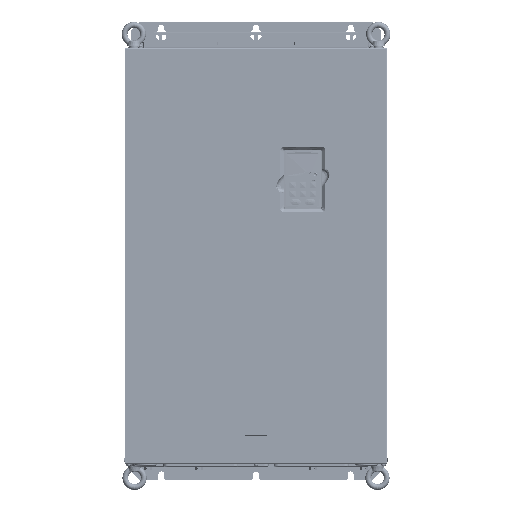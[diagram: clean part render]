
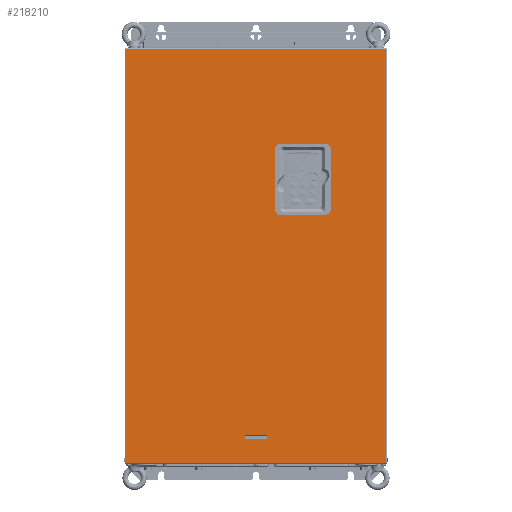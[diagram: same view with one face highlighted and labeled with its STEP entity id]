
A CAD part, top view. The second image highlights one B-rep face of the part: STEP entity #218210.
In plain terms, the highlighted planar face has unit normal (0, 0, 1).
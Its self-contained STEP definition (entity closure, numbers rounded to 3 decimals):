
#216063=DIRECTION('',(1.,0.,0.));
#216064=VECTOR('',#216063,82.);
#216065=CARTESIAN_POINT('',(-130.,-213.61,0.));
#216066=LINE('',#216065,#216064);
#216067=DIRECTION('',(0.,1.,0.));
#216068=VECTOR('',#216067,111.5);
#216069=CARTESIAN_POINT('',(-35.5,-201.11,0.));
#216070=LINE('',#216069,#216068);
#216071=DIRECTION('',(-1.,0.,0.));
#216072=VECTOR('',#216071,82.);
#216073=CARTESIAN_POINT('',(-48.,-77.11,0.));
#216074=LINE('',#216073,#216072);
#216075=DIRECTION('',(0.,-1.,0.));
#216076=VECTOR('',#216075,111.5);
#216077=CARTESIAN_POINT('',(-142.5,-89.61,0.));
#216078=LINE('',#216077,#216076);
#216079=CARTESIAN_POINT('',(-20.,348.,0.));
#216080=DIRECTION('',(0.,0.,-1.));
#216081=DIRECTION('',(-1.,0.,0.));
#216082=AXIS2_PLACEMENT_3D('',#216079,#216080,#216081);
#216084=DIRECTION('',(0.,1.,0.));
#216085=VECTOR('',#216084,6.);
#216086=CARTESIAN_POINT('',(-20.7,342.,0.));
#216087=LINE('',#216086,#216085);
#216088=CARTESIAN_POINT('',(-20.,342.,0.));
#216089=DIRECTION('',(0.,0.,-1.));
#216090=DIRECTION('',(0.,-1.,0.));
#216091=AXIS2_PLACEMENT_3D('',#216088,#216089,#216090);
#216093=DIRECTION('',(-1.,0.,0.));
#216094=VECTOR('',#216093,40.);
#216095=CARTESIAN_POINT('',(20.,341.3,0.));
#216096=LINE('',#216095,#216094);
#216097=CARTESIAN_POINT('',(20.,342.,0.));
#216098=DIRECTION('',(0.,0.,-1.));
#216099=DIRECTION('',(1.,0.,0.));
#216100=AXIS2_PLACEMENT_3D('',#216097,#216098,#216099);
#216102=DIRECTION('',(0.,-1.,0.));
#216103=VECTOR('',#216102,6.);
#216104=CARTESIAN_POINT('',(20.7,348.,0.));
#216105=LINE('',#216104,#216103);
#216106=CARTESIAN_POINT('',(20.,348.,0.));
#216107=DIRECTION('',(0.,0.,-1.));
#216108=DIRECTION('',(0.,1.,0.));
#216109=AXIS2_PLACEMENT_3D('',#216106,#216107,#216108);
#216111=DIRECTION('',(1.,0.,0.));
#216112=VECTOR('',#216111,40.);
#216113=CARTESIAN_POINT('',(-20.,348.7,0.));
#216114=LINE('',#216113,#216112);
#216129=DIRECTION('',(0.,1.,0.));
#216130=VECTOR('',#216129,787.2);
#216131=CARTESIAN_POINT('',(-247.6,-393.6,0.));
#216132=LINE('',#216131,#216130);
#216192=DIRECTION('',(-1.,0.,0.));
#216193=VECTOR('',#216192,496.2);
#216194=CARTESIAN_POINT('',(248.6,-393.6,0.));
#216195=LINE('',#216194,#216193);
#216593=DIRECTION('',(0.,-1.,0.));
#216594=VECTOR('',#216593,787.2);
#216595=CARTESIAN_POINT('',(248.6,393.6,0.));
#216596=LINE('',#216595,#216594);
#216656=DIRECTION('',(1.,0.,0.));
#216657=VECTOR('',#216656,496.2);
#216658=CARTESIAN_POINT('',(-247.6,393.6,0.));
#216659=LINE('',#216658,#216657);
#217173=CARTESIAN_POINT('',(-48.,-201.11,0.));
#217174=DIRECTION('',(0.,0.,-1.));
#217175=DIRECTION('',(1.,0.,0.));
#217176=AXIS2_PLACEMENT_3D('',#217173,#217174,#217175);
#217191=CARTESIAN_POINT('',(-130.,-201.11,0.));
#217192=DIRECTION('',(0.,0.,-1.));
#217193=DIRECTION('',(0.,-1.,0.));
#217194=AXIS2_PLACEMENT_3D('',#217191,#217192,#217193);
#217209=CARTESIAN_POINT('',(-130.,-89.61,0.));
#217210=DIRECTION('',(0.,0.,-1.));
#217211=DIRECTION('',(-1.,0.,0.));
#217212=AXIS2_PLACEMENT_3D('',#217209,#217210,#217211);
#217227=CARTESIAN_POINT('',(-48.,-89.61,0.));
#217228=DIRECTION('',(0.,0.,-1.));
#217229=DIRECTION('',(0.,1.,0.));
#217230=AXIS2_PLACEMENT_3D('',#217227,#217228,#217229);
#217763=CARTESIAN_POINT('',(-247.6,393.6,0.));
#217764=VERTEX_POINT('',#217763);
#217767=CARTESIAN_POINT('',(-247.6,-393.6,0.));
#217768=VERTEX_POINT('',#217767);
#217795=CARTESIAN_POINT('',(248.6,-393.6,0.));
#217796=VERTEX_POINT('',#217795);
#217799=CARTESIAN_POINT('',(248.6,393.6,0.));
#217800=VERTEX_POINT('',#217799);
#217983=CARTESIAN_POINT('',(-130.,-213.61,0.));
#217985=VERTEX_POINT('',#217983);
#217987=CARTESIAN_POINT('',(-142.5,-201.11,0.));
#217989=VERTEX_POINT('',#217987);
#217991=CARTESIAN_POINT('',(-35.5,-201.11,0.));
#217993=VERTEX_POINT('',#217991);
#217995=CARTESIAN_POINT('',(-48.,-213.61,0.));
#217997=VERTEX_POINT('',#217995);
#217999=CARTESIAN_POINT('',(-142.5,-89.61,0.));
#218001=VERTEX_POINT('',#217999);
#218003=CARTESIAN_POINT('',(-130.,-77.11,0.));
#218005=VERTEX_POINT('',#218003);
#218007=CARTESIAN_POINT('',(-48.,-77.11,0.));
#218009=VERTEX_POINT('',#218007);
#218011=CARTESIAN_POINT('',(-35.5,-89.61,0.));
#218013=VERTEX_POINT('',#218011);
#218063=CARTESIAN_POINT('',(-20.7,348.,0.));
#218064=CARTESIAN_POINT('',(-20.,348.7,0.));
#218065=VERTEX_POINT('',#218063);
#218066=VERTEX_POINT('',#218064);
#218067=CARTESIAN_POINT('',(20.,348.7,0.));
#218068=VERTEX_POINT('',#218067);
#218069=CARTESIAN_POINT('',(20.7,348.,0.));
#218070=VERTEX_POINT('',#218069);
#218071=CARTESIAN_POINT('',(20.7,342.,0.));
#218072=VERTEX_POINT('',#218071);
#218073=CARTESIAN_POINT('',(20.,341.3,0.));
#218074=VERTEX_POINT('',#218073);
#218075=CARTESIAN_POINT('',(-20.,341.3,0.));
#218076=VERTEX_POINT('',#218075);
#218077=CARTESIAN_POINT('',(-20.7,342.,0.));
#218078=VERTEX_POINT('',#218077);
#218159=CARTESIAN_POINT('',(0.,0.,0.));
#218160=DIRECTION('',(0.,0.,1.));
#218161=DIRECTION('',(1.,0.,0.));
#218162=AXIS2_PLACEMENT_3D('',#218159,#218160,#218161);
#218163=PLANE('',#218162);
#218165=ORIENTED_EDGE('',*,*,#218164,.T.);
#218167=ORIENTED_EDGE('',*,*,#218166,.T.);
#218169=ORIENTED_EDGE('',*,*,#218168,.T.);
#218171=ORIENTED_EDGE('',*,*,#218170,.T.);
#218172=EDGE_LOOP('',(#218165,#218167,#218169,#218171));
#218173=FACE_OUTER_BOUND('',#218172,.F.);
#218175=ORIENTED_EDGE('',*,*,#218174,.T.);
#218177=ORIENTED_EDGE('',*,*,#218176,.F.);
#218179=ORIENTED_EDGE('',*,*,#218178,.T.);
#218181=ORIENTED_EDGE('',*,*,#218180,.F.);
#218183=ORIENTED_EDGE('',*,*,#218182,.T.);
#218185=ORIENTED_EDGE('',*,*,#218184,.F.);
#218187=ORIENTED_EDGE('',*,*,#218186,.T.);
#218189=ORIENTED_EDGE('',*,*,#218188,.F.);
#218190=EDGE_LOOP('',(#218175,#218177,#218179,#218181,#218183,#218185,#218187,
#218189));
#218191=FACE_BOUND('',#218190,.F.);
#218193=ORIENTED_EDGE('',*,*,#218192,.F.);
#218195=ORIENTED_EDGE('',*,*,#218194,.F.);
#218197=ORIENTED_EDGE('',*,*,#218196,.F.);
#218199=ORIENTED_EDGE('',*,*,#218198,.F.);
#218201=ORIENTED_EDGE('',*,*,#218200,.F.);
#218203=ORIENTED_EDGE('',*,*,#218202,.F.);
#218205=ORIENTED_EDGE('',*,*,#218204,.F.);
#218207=ORIENTED_EDGE('',*,*,#218206,.F.);
#218208=EDGE_LOOP('',(#218193,#218195,#218197,#218199,#218201,#218203,#218205,
#218207));
#218209=FACE_BOUND('',#218208,.F.);
#216083=CIRCLE('',#216082,0.7);
#216092=CIRCLE('',#216091,0.7);
#216101=CIRCLE('',#216100,0.7);
#216110=CIRCLE('',#216109,0.7);
#217177=CIRCLE('',#217176,12.5);
#217195=CIRCLE('',#217194,12.5);
#217213=CIRCLE('',#217212,12.5);
#217231=CIRCLE('',#217230,12.5);
#218164=EDGE_CURVE('',#217768,#217764,#216132,.T.);
#218166=EDGE_CURVE('',#217764,#217800,#216659,.T.);
#218168=EDGE_CURVE('',#217800,#217796,#216596,.T.);
#218170=EDGE_CURVE('',#217796,#217768,#216195,.T.);
#218174=EDGE_CURVE('',#217985,#217997,#216066,.T.);
#218176=EDGE_CURVE('',#217993,#217997,#217177,.T.);
#218178=EDGE_CURVE('',#217993,#218013,#216070,.T.);
#218180=EDGE_CURVE('',#218009,#218013,#217231,.T.);
#218182=EDGE_CURVE('',#218009,#218005,#216074,.T.);
#218184=EDGE_CURVE('',#218001,#218005,#217213,.T.);
#218186=EDGE_CURVE('',#218001,#217989,#216078,.T.);
#218188=EDGE_CURVE('',#217985,#217989,#217195,.T.);
#218192=EDGE_CURVE('',#218065,#218066,#216083,.T.);
#218194=EDGE_CURVE('',#218078,#218065,#216087,.T.);
#218196=EDGE_CURVE('',#218076,#218078,#216092,.T.);
#218198=EDGE_CURVE('',#218074,#218076,#216096,.T.);
#218200=EDGE_CURVE('',#218072,#218074,#216101,.T.);
#218202=EDGE_CURVE('',#218070,#218072,#216105,.T.);
#218204=EDGE_CURVE('',#218068,#218070,#216110,.T.);
#218206=EDGE_CURVE('',#218066,#218068,#216114,.T.);
#218210=ADVANCED_FACE('',(#218173,#218191,#218209),#218163,.T.);
